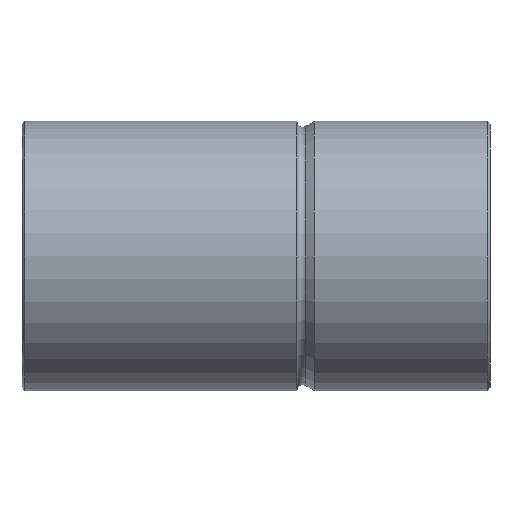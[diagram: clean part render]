
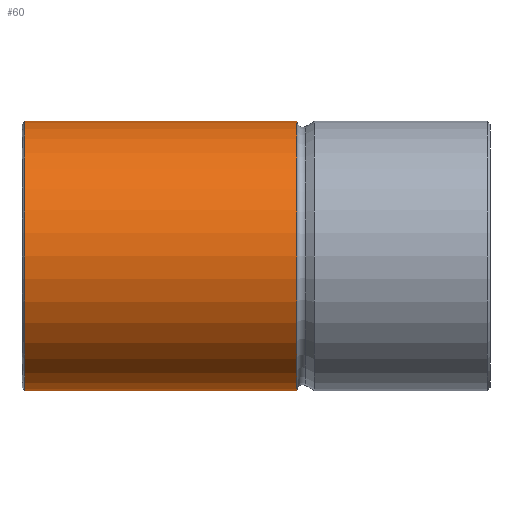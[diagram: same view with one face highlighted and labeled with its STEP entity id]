
A CAD part, front view. The second image highlights one B-rep face of the part: STEP entity #60.
In plain terms, the highlighted cylindrical face has radius 23.02 mm (diameter 46.04 mm), a full revolution.
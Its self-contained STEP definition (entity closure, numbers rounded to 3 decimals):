
#60 = ADVANCED_FACE( '', ( #130, #131, #132 ), #133, .T. );
#130 = FACE_OUTER_BOUND( '', #203, .T. );
#131 = FACE_BOUND( '', #204, .T. );
#132 = FACE_OUTER_BOUND( '', #205, .T. );
#133 = CYLINDRICAL_SURFACE( '', #206, 23.02 );
#203 = EDGE_LOOP( '', ( #290 ) );
#204 = EDGE_LOOP( '', ( #291 ) );
#205 = EDGE_LOOP( '', ( #292 ) );
#206 = AXIS2_PLACEMENT_3D( '', #293, #294, #295 );
#290 = ORIENTED_EDGE( '', *, *, #352, .T. );
#291 = ORIENTED_EDGE( '', *, *, #342, .T. );
#292 = ORIENTED_EDGE( '', *, *, #349, .F. );
#293 = CARTESIAN_POINT( '', ( 0., 0., 0. ) );
#294 = DIRECTION( '', ( -1., 0., 0. ) );
#295 = DIRECTION( '', ( 0., 0., -1. ) );
#342 = EDGE_CURVE( '', #385, #385, #386, .T. );
#349 = EDGE_CURVE( '', #396, #396, #397, .T. );
#352 = EDGE_CURVE( '', #400, #400, #401, .T. );
#385 = VERTEX_POINT( '', #486 );
#386 = B_SPLINE_CURVE_WITH_KNOTS( '', 3, ( #487, #488, #489, #490, #491, #492, #493, #494, #495, #496, #497, #498, #499, #500, #501, #502, #503, #504, #505, #506, #507, #508, #509, #510, #511, #512, #513, #514, #515, #516, #517, #518, #519, #520, #521, #522, #523, #524, #525, #526, #527, #528, #529, #530, #531, #532, #533, #534, #535, #536, #537, #538, #539, #540, #541, #542, #543, #544, #545, #546, #547, #548, #549, #550 ), .UNSPECIFIED., .T., .F., ( 2, 2, 2, 2, 2, 2, 2, 2, 2, 2, 2, 2, 2, 2, 2, 2, 2, 2, 2, 2, 2, 2, 2, 2, 2, 2, 2, 2, 2, 2, 2, 2, 2, 2 ), ( -0.001, 0., 0., 0.001, 0.001, 0.002, 0.002, 0.003, 0.003, 0.004, 0.004, 0.005, 0.005, 0.006, 0.006, 0.007, 0.007, 0.008, 0.008, 0.009, 0.009, 0.01, 0.01, 0.011, 0.011, 0.012, 0.012, 0.013, 0.013, 0.014, 0.014, 0.015, 0.016, 0.016 ), .UNSPECIFIED. );
#396 = VERTEX_POINT( '', #560 );
#397 = CIRCLE( '', #561, 23.02 );
#400 = VERTEX_POINT( '', #564 );
#401 = CIRCLE( '', #565, 23.02 );
#486 = CARTESIAN_POINT( '', ( -70., 22.884, -2.5 ) );
#487 = CARTESIAN_POINT( '', ( -70.331, 22.884, -2.5 ) );
#488 = CARTESIAN_POINT( '', ( -69.835, 22.884, -2.5 ) );
#489 = CARTESIAN_POINT( '', ( -69.672, 22.886, -2.484 ) );
#490 = CARTESIAN_POINT( '', ( -69.353, 22.892, -2.42 ) );
#491 = CARTESIAN_POINT( '', ( -69.194, 22.898, -2.372 ) );
#492 = CARTESIAN_POINT( '', ( -68.891, 22.91, -2.247 ) );
#493 = CARTESIAN_POINT( '', ( -68.747, 22.918, -2.17 ) );
#494 = CARTESIAN_POINT( '', ( -68.476, 22.934, -1.988 ) );
#495 = CARTESIAN_POINT( '', ( -68.347, 22.943, -1.883 ) );
#496 = CARTESIAN_POINT( '', ( -68.117, 22.961, -1.652 ) );
#497 = CARTESIAN_POINT( '', ( -68.013, 22.97, -1.527 ) );
#498 = CARTESIAN_POINT( '', ( -67.831, 22.986, -1.253 ) );
#499 = CARTESIAN_POINT( '', ( -67.753, 22.994, -1.108 ) );
#500 = CARTESIAN_POINT( '', ( -67.628, 23.006, -0.807 ) );
#501 = CARTESIAN_POINT( '', ( -67.58, 23.011, -0.65 ) );
#502 = CARTESIAN_POINT( '', ( -67.516, 23.018, -0.327 ) );
#503 = CARTESIAN_POINT( '', ( -67.5, 23.02, -0.165 ) );
#504 = CARTESIAN_POINT( '', ( -67.5, 23.02, 0.162 ) );
#505 = CARTESIAN_POINT( '', ( -67.516, 23.018, 0.328 ) );
#506 = CARTESIAN_POINT( '', ( -67.58, 23.011, 0.648 ) );
#507 = CARTESIAN_POINT( '', ( -67.627, 23.006, 0.804 ) );
#508 = CARTESIAN_POINT( '', ( -67.752, 22.994, 1.107 ) );
#509 = CARTESIAN_POINT( '', ( -67.831, 22.986, 1.253 ) );
#510 = CARTESIAN_POINT( '', ( -68.012, 22.97, 1.524 ) );
#511 = CARTESIAN_POINT( '', ( -68.115, 22.961, 1.65 ) );
#512 = CARTESIAN_POINT( '', ( -68.348, 22.943, 1.884 ) );
#513 = CARTESIAN_POINT( '', ( -68.474, 22.934, 1.987 ) );
#514 = CARTESIAN_POINT( '', ( -68.745, 22.918, 2.168 ) );
#515 = CARTESIAN_POINT( '', ( -68.891, 22.91, 2.247 ) );
#516 = CARTESIAN_POINT( '', ( -69.194, 22.898, 2.372 ) );
#517 = CARTESIAN_POINT( '', ( -69.35, 22.893, 2.419 ) );
#518 = CARTESIAN_POINT( '', ( -69.67, 22.886, 2.484 ) );
#519 = CARTESIAN_POINT( '', ( -69.836, 22.884, 2.5 ) );
#520 = CARTESIAN_POINT( '', ( -70.162, 22.884, 2.5 ) );
#521 = CARTESIAN_POINT( '', ( -70.325, 22.886, 2.484 ) );
#522 = CARTESIAN_POINT( '', ( -70.647, 22.892, 2.42 ) );
#523 = CARTESIAN_POINT( '', ( -70.805, 22.898, 2.372 ) );
#524 = CARTESIAN_POINT( '', ( -71.106, 22.91, 2.248 ) );
#525 = CARTESIAN_POINT( '', ( -71.251, 22.918, 2.17 ) );
#526 = CARTESIAN_POINT( '', ( -71.525, 22.934, 1.988 ) );
#527 = CARTESIAN_POINT( '', ( -71.651, 22.943, 1.885 ) );
#528 = CARTESIAN_POINT( '', ( -71.881, 22.961, 1.654 ) );
#529 = CARTESIAN_POINT( '', ( -71.987, 22.97, 1.526 ) );
#530 = CARTESIAN_POINT( '', ( -72.169, 22.986, 1.254 ) );
#531 = CARTESIAN_POINT( '', ( -72.246, 22.994, 1.111 ) );
#532 = CARTESIAN_POINT( '', ( -72.371, 23.006, 0.808 ) );
#533 = CARTESIAN_POINT( '', ( -72.42, 23.011, 0.65 ) );
#534 = CARTESIAN_POINT( '', ( -72.483, 23.018, 0.33 ) );
#535 = CARTESIAN_POINT( '', ( -72.5, 23.02, 0.168 ) );
#536 = CARTESIAN_POINT( '', ( -72.5, 23.02, -0.163 ) );
#537 = CARTESIAN_POINT( '', ( -72.484, 23.018, -0.326 ) );
#538 = CARTESIAN_POINT( '', ( -72.421, 23.012, -0.645 ) );
#539 = CARTESIAN_POINT( '', ( -72.373, 23.006, -0.804 ) );
#540 = CARTESIAN_POINT( '', ( -72.248, 22.994, -1.107 ) );
#541 = CARTESIAN_POINT( '', ( -72.171, 22.986, -1.251 ) );
#542 = CARTESIAN_POINT( '', ( -71.99, 22.97, -1.522 ) );
#543 = CARTESIAN_POINT( '', ( -71.884, 22.961, -1.651 ) );
#544 = CARTESIAN_POINT( '', ( -71.654, 22.943, -1.882 ) );
#545 = CARTESIAN_POINT( '', ( -71.528, 22.934, -1.985 ) );
#546 = CARTESIAN_POINT( '', ( -71.255, 22.918, -2.168 ) );
#547 = CARTESIAN_POINT( '', ( -71.11, 22.91, -2.246 ) );
#548 = CARTESIAN_POINT( '', ( -70.659, 22.891, -2.433 ) );
#549 = CARTESIAN_POINT( '', ( -70.331, 22.884, -2.5 ) );
#550 = CARTESIAN_POINT( '', ( -69.835, 22.884, -2.5 ) );
#560 = CARTESIAN_POINT( '', ( -33., 0., -23.02 ) );
#561 = AXIS2_PLACEMENT_3D( '', #609, #610, #611 );
#564 = CARTESIAN_POINT( '', ( -79.5, 0., -23.02 ) );
#565 = AXIS2_PLACEMENT_3D( '', #612, #613, #614 );
#609 = CARTESIAN_POINT( '', ( -33., 0., 0. ) );
#610 = DIRECTION( '', ( 1., 0., 0. ) );
#611 = DIRECTION( '', ( 0., 0., -1. ) );
#612 = CARTESIAN_POINT( '', ( -79.5, 0., 0. ) );
#613 = DIRECTION( '', ( 1., 0., 0. ) );
#614 = DIRECTION( '', ( 0., 0., -1. ) );
